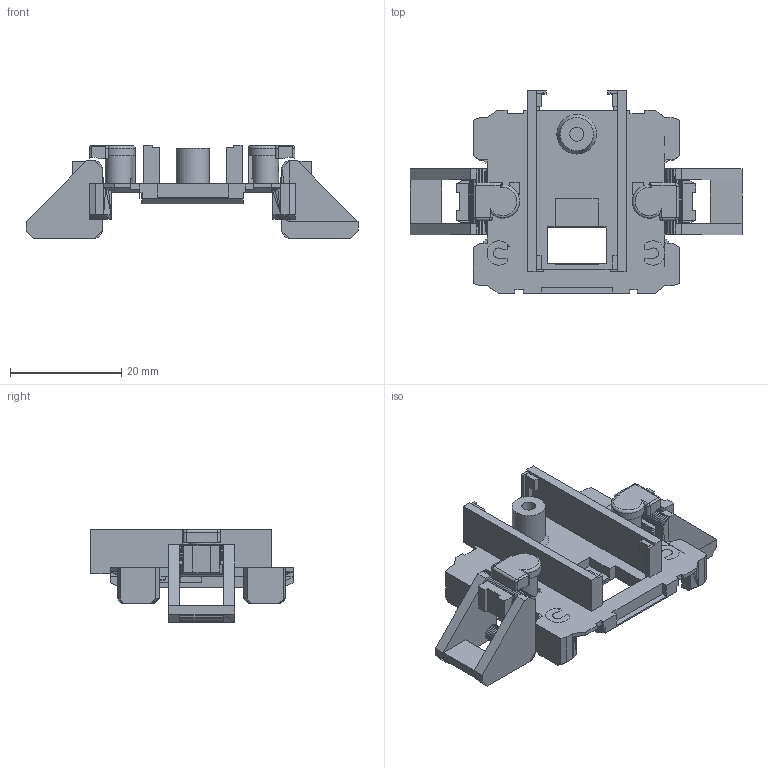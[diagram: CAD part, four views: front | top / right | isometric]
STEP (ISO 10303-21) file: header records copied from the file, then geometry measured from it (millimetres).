
FILE_DESCRIPTION(('Open CASCADE Model'),'2;1');
FILE_NAME('Open CASCADE Shape Model','2026-10-05T13:44:06',('Author'),( 'Open CASCADE'),'Open CASCADE STEP processor 7.9','Open CASCADE 7.9' ,'Unknown');
FILE_SCHEMA(('AUTOMOTIVE_DESIGN { 1 0 10303 214 1 1 1 1 }'));
Length unit declared in the file: millimetre
Products named in the file (4): Open CASCADE STEP translator 7.9 2; Open CASCADE STEP translator 7.9 2.1; Open CASCADE STEP translator 7.9 2.2; Open CASCADE STEP translator 7.9 2.3
Assembly tree (3 placements, depth 2):
  Open CASCADE STEP translator 7.9 2
    Open CASCADE STEP translator 7.9 2.1
    Open CASCADE STEP translator 7.9 2.2
    Open CASCADE STEP translator 7.9 2.3
Bounding box: 59.78 x 36.41 x 16.76 mm (x, y, z)
Volume: 5695.7 mm3; surface area: 7085.9 mm2
Topology: 3 solids, 3 shells, 963 faces, 2671 edges, 1708 vertices
Faces by surface type: plane 901, cylinder 53, revolution 6, torus 2, cone 1
Full cylindrical faces by diameter (mm): 2.5 x1, 4.8 x2, 6 x1
Entity records: 66078 total; most frequent: CARTESIAN_POINT 12653, DIRECTION 9761, LINE 7499, VECTOR 7499, ORIENTED_EDGE 5342, PCURVE 5342, DEFINITIONAL_REPRESENTATION 5342, EDGE_CURVE 2671
